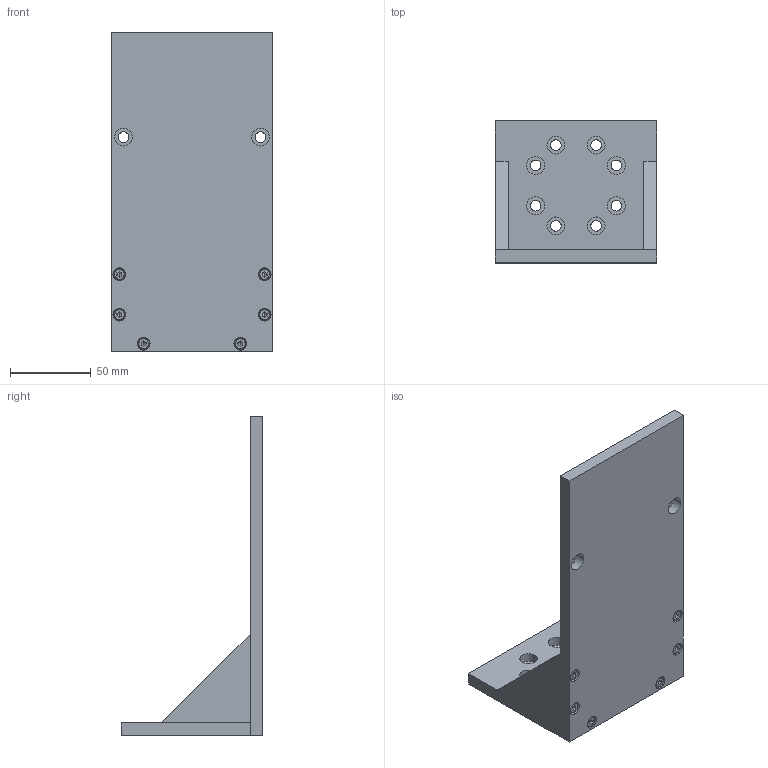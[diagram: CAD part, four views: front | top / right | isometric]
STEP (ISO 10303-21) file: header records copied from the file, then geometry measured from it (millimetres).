
FILE_DESCRIPTION (( 'STEP AP203' ), '1' );
FILE_NAME ('HGMBR12 眻褒輸.STEP', '2021-05-27T07:31:55', ( '' ), ( '' ), 'SwSTEP 2.0', 'SolidWorks 2020', '' );
FILE_SCHEMA (( 'CONFIG_CONTROL_DESIGN' ));
Length unit declared in the file: millimetre
Products named in the file (5): hexagon socket head cap screws gb_GB_FASTENER_SCREWS_HSHCS M4X8-N; HGMBR12-2 踐啣; HGMBR12-3 筵啣; HGMBR12-1 菁啣; HGMBR12 眻褒輸
Assembly tree (14 placements, depth 2):
  HGMBR12 眻褒輸
    HGMBR12-1 菁啣
    HGMBR12-3 筵啣
    HGMBR12-2 踐啣  x2
    hexagon socket head cap screws gb_GB_FASTENER_SCREWS_HSHCS M4X8-N  x10
Bounding box: 100 x 88 x 198 mm (x, y, z)
Volume: 238823.2 mm3; surface area: 79296.3 mm2
Topology: 14 solids, 14 shells, 412 faces, 942 edges, 568 vertices
Faces by surface type: plane 192, cylinder 140, cone 60, torus 20
Entity records: 5648 total; most frequent: DIRECTION 947, CARTESIAN_POINT 803, ORIENTED_EDGE 750, AXIS2_PLACEMENT_3D 389, EDGE_CURVE 375, VERTEX_POINT 245, EDGE_LOOP 234, CIRCLE 206
